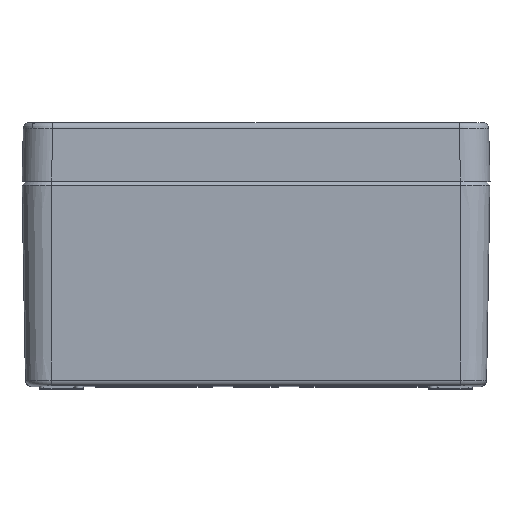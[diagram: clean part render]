
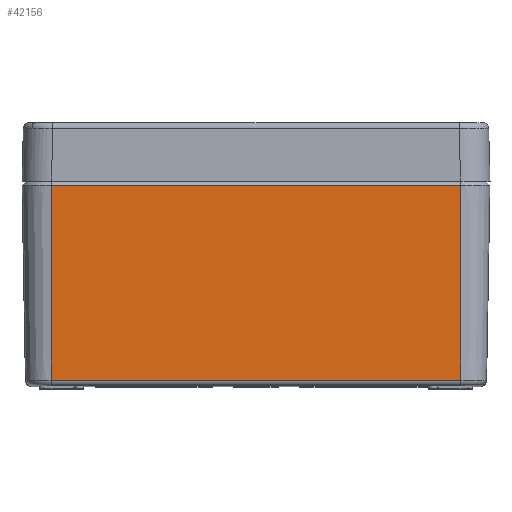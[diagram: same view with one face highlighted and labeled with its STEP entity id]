
A CAD part, top view. The second image highlights one B-rep face of the part: STEP entity #42156.
In plain terms, the highlighted planar face has unit normal (0, -0.018, 1) as drawn and (0, 0.017, 1) by its records, which use the part's own axes.
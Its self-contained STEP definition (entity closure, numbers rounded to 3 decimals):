
#373 = CARTESIAN_POINT ( 'NONE',  ( -70.025, 0., 65.088 ) ) ;
#2782 = EDGE_CURVE ( 'NONE', #79704, #18526, #77054, .T. ) ;
#3663 = VECTOR ( 'NONE', #21435, 1000. ) ;
#5243 = ORIENTED_EDGE ( 'NONE', *, *, #34237, .F. ) ;
#6797 = LINE ( 'NONE', #30340, #44642 ) ;
#7298 = VECTOR ( 'NONE', #80001, 1000. ) ;
#8463 = CARTESIAN_POINT ( 'NONE',  ( 70.025, -1.5, 65.114 ) ) ;
#10659 = CARTESIAN_POINT ( 'NONE',  ( 91.819, -1.5, 65.114 ) ) ;
#12209 = CARTESIAN_POINT ( 'NONE',  ( -70.618, 66.535, 63.927 ) ) ;
#18526 = VERTEX_POINT ( 'NONE', #76816 ) ;
#20641 = EDGE_CURVE ( 'NONE', #18526, #32634, #38877, .T. ) ;
#21193 = VECTOR ( 'NONE', #46587, 1000. ) ;
#21435 = DIRECTION ( 'NONE',  ( 1., 0., 0. ) ) ;
#22272 = EDGE_CURVE ( 'NONE', #79704, #23023, #6797, .T. ) ;
#23023 = VERTEX_POINT ( 'NONE', #60198 ) ;
#23099 = EDGE_LOOP ( 'NONE', ( #72125, #41016, #43226, #5243 ) ) ;
#30340 = CARTESIAN_POINT ( 'NONE',  ( -70.025, 0., 65.088 ) ) ;
#30874 = LINE ( 'NONE', #12209, #7298 ) ;
#32634 = VERTEX_POINT ( 'NONE', #57440 ) ;
#34036 = CARTESIAN_POINT ( 'NONE',  ( 91.819, 0., 65.088 ) ) ;
#34237 = EDGE_CURVE ( 'NONE', #23023, #32634, #30874, .T. ) ;
#37352 = AXIS2_PLACEMENT_3D ( 'NONE', #10659, #80030, #56441 ) ;
#38877 = LINE ( 'NONE', #8463, #21193 ) ;
#41016 = ORIENTED_EDGE ( 'NONE', *, *, #2782, .T. ) ;
#41483 = FACE_OUTER_BOUND ( 'NONE', #23099, .T. ) ;
#42156 = ADVANCED_FACE ( 'NONE', ( #41483 ), #66255, .T. ) ;
#43226 = ORIENTED_EDGE ( 'NONE', *, *, #20641, .T. ) ;
#43697 = DIRECTION ( 'NONE',  ( 0., 1., -0.017 ) ) ;
#44642 = VECTOR ( 'NONE', #43697, 1000. ) ;
#46587 = DIRECTION ( 'NONE',  ( 0., 1., -0.017 ) ) ;
#56441 = DIRECTION ( 'NONE',  ( 0., -1., 0.017 ) ) ;
#57440 = CARTESIAN_POINT ( 'NONE',  ( 70.025, 66.535, 63.927 ) ) ;
#60198 = CARTESIAN_POINT ( 'NONE',  ( -70.025, 66.535, 63.927 ) ) ;
#66255 = PLANE ( 'NONE',  #37352 ) ;
#72125 = ORIENTED_EDGE ( 'NONE', *, *, #22272, .F. ) ;
#76816 = CARTESIAN_POINT ( 'NONE',  ( 70.025, 0., 65.088 ) ) ;
#77054 = LINE ( 'NONE', #34036, #3663 ) ;
#79704 = VERTEX_POINT ( 'NONE', #373 ) ;
#80001 = DIRECTION ( 'NONE',  ( 1., 0., 0. ) ) ;
#80030 = DIRECTION ( 'NONE',  ( 0., 0.017, 1. ) ) ;
